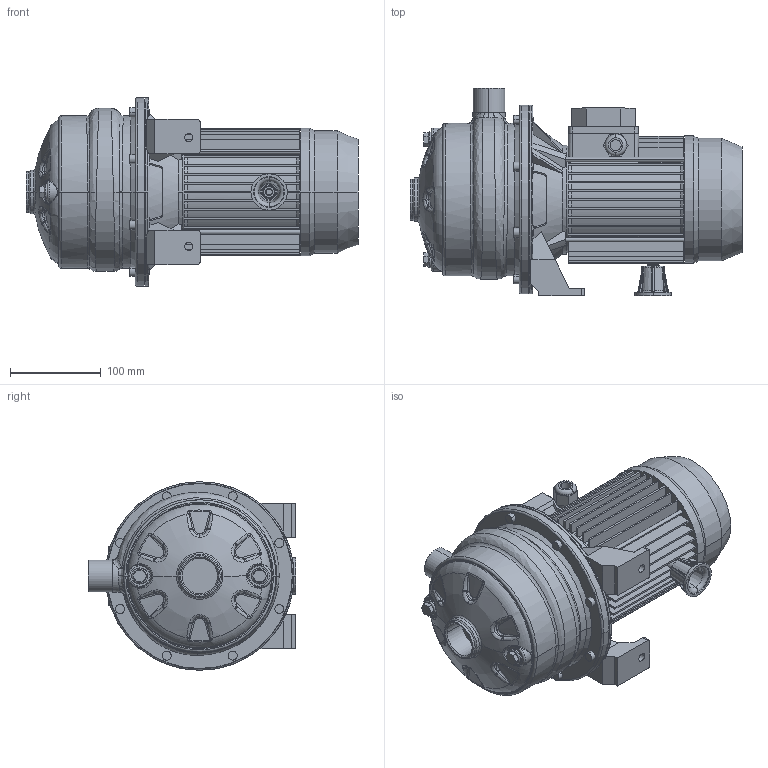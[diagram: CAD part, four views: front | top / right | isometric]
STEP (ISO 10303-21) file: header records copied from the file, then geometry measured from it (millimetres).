
FILE_DESCRIPTION((''),'2;1');
FILE_NAME('2CDX_70_12_IE2_ASM','2011-06-30T',('Utente'),('"Ebara Pumps Europe +39.444.706811"'),'PRO/ENGINEER BY PARAMETRIC TECHNOLOGY CORPORATION, 2009360','PRO/ENGINEER BY PARAMETRIC TECHNOLOGY CORPORATION, 2009360','');
FILE_SCHEMA(('AUTOMOTIVE_DESIGN { 1 0 10303 214 1 1 1 1 }'));
Length unit declared in the file: millimetre
Products named in the file (5): MEC_71X110_IE2; 80545; 251420688; 72012; 2CDX_70_12_IE2_ASM
Assembly tree (4 placements, depth 2):
  2CDX_70_12_IE2_ASM
    MEC_71X110_IE2
    80545
    251420688
    72012
Bounding box: 366 x 229 x 208 mm (x, y, z)
Volume: 3952580.7 mm3; surface area: 564339.5 mm2
Topology: 4 solids, 6 shells, 1021 faces, 2433 edges, 1468 vertices
Faces by surface type: plane 407, bspline 210, cylinder 198, cone 126, torus 78, sphere 2
Entity records: 50905 total; most frequent: CARTESIAN_POINT 19832, ORIENTED_EDGE 4866, DIRECTION 4359, PRESENTATION_STYLE_ASSIGNMENT 2437, STYLED_ITEM 2437, CURVE_STYLE 2433, EDGE_CURVE 2433, AXIS2_PLACEMENT_3D 1743
